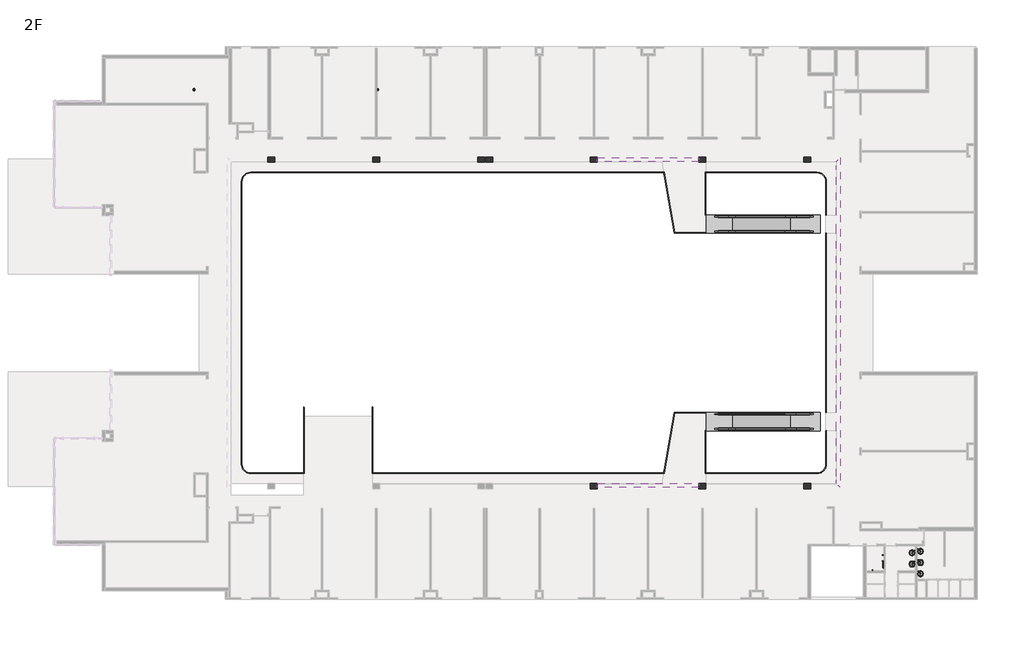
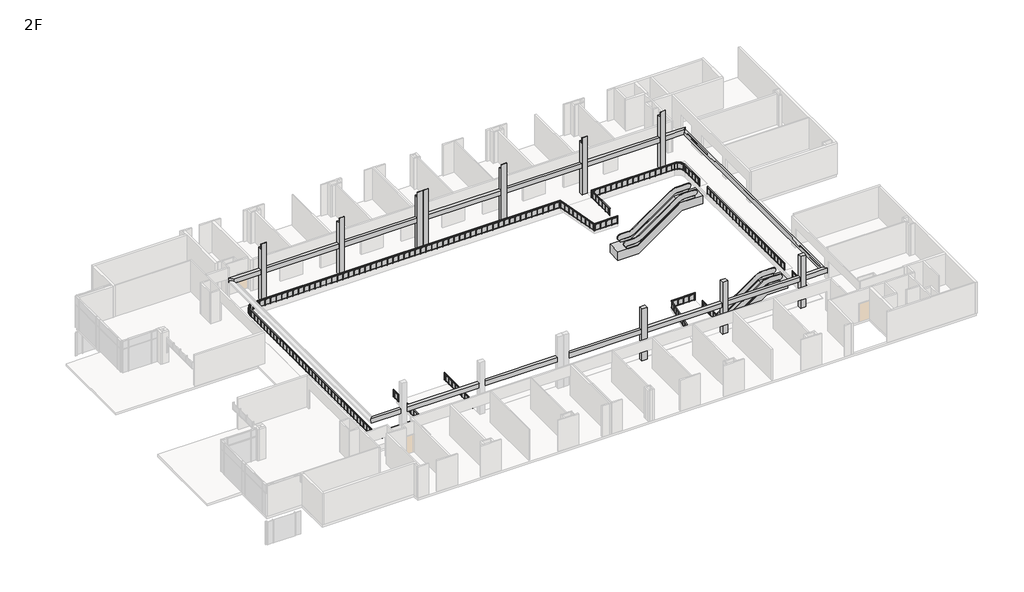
# One storey, part 6 of 6: 10 columns, 9 flow terminals, 5 railings, 3 beams, 2 light fixtures, 2 proxies.
"""IFC4 building model written with IfcOpenShell, lengths in millimetres."""

from ifc_helpers import new_model, si_unit, frame, origin, place, context, project, spatial, polyline, circle_curve, outline, extrude, faceted_brep, transform, mapped, element, save
from ifc_brep_helpers import plane_surface, cylinder_surface, advanced_brep
from components import escalator_escalator_upper_floors_03ccc224, escalator_escalator_upper_floors_265e6ffc, grab_rail_horizontal_grab_bar_horizontal_3488bc9b, grab_rail_vertical_grab_rail_vertical_4faa361f, sink_bathroom_2_sink_bathroom_2_b4141ae8, sink_bathroom_2_sink_bathroom_2_ad220687, street_light_8_street_light_8_87dfb617, handrail_glass_panel_8400b6d2, handrail_glass_panel_13f54aed, handrail_glass_panel_4ead3802, handrail_glass_panel_f7548589, handrail_glass_panel_d91cfecd, handrail_glass_panel_25425764, handrail_glass_panel_a0be857a

model = new_model("IFC4")

# Units and contexts
model_context = context("Model", 3, world=origin())
ifc_project = project(units=[si_unit("LENGTHUNIT", "METRE", prefix="MILLI")], contexts=[model_context])

# Site, building, storey
site = spatial("IfcSite", under=ifc_project)
building = spatial("IfcBuilding", under=site)
storey = spatial("IfcBuildingStorey", under=building, Name="2F", Elevation=8100.0)

# Beams
placement = place(None, origin())
element("IfcBeam", 1, ObjectType="M_Concrete-Rectangular Beam : 350 x 550mm", at=placement, inside=storey, context=model_context, shape_type="SweptSolid", body=[
    extrude(outline(polyline([(31312.4134101, 11797.3851347), (30962.4134101, 11447.3851347), (28787.4134101, 11447.3851347), (28787.4134101, 11797.3851347), (31312.4134101, 11797.3851347)])), frame((0.0, 0.0, 11300.0), z_axis=(0.0, 0.0, 1.0), x_axis=(1.0, 0.0, 0.0)), (0.0, 0.0, 1.0), 550.0),
    extrude(outline(polyline([(-20537.5865899, 11447.3851347), (-20887.5865899, 11797.3851347), (-17437.5865899, 11797.3851347), (-17437.5865899, 11447.3851347), (-20537.5865899, 11447.3851347)])), frame((0.0, 0.0, 11300.0), z_axis=(0.0, 0.0, 1.0), x_axis=(1.0, 0.0, 0.0)), (0.0, 0.0, 1.0), 550.0),
    extrude(outline(polyline([(-8507.5865899, 11797.3851347), (-8507.5865899, 11447.3851347), (-16837.5865899, 11447.3851347), (-16837.5865899, 11797.3851347), (-8507.5865899, 11797.3851347)])), frame((0.0, 0.0, 11300.0), z_axis=(0.0, 0.0, 1.0), x_axis=(1.0, 0.0, 0.0)), (0.0, 0.0, 1.0), 550.0),
    extrude(outline(polyline([(-7907.5865899, 11447.3851347), (-7907.5865899, 11797.3851347), (422.4134101, 11797.3851347), (422.4134101, 11447.3851347), (-7907.5865899, 11447.3851347)])), frame((0.0, 0.0, 11300.0), z_axis=(0.0, 0.0, 1.0), x_axis=(1.0, 0.0, 0.0)), (0.0, 0.0, 1.0), 550.0),
    extrude(outline(polyline([(1022.4134101, 11447.3851347), (1022.4134101, 11797.3851347), (1097.4134101, 11797.3851347), (1097.4134101, 11447.3851347), (1022.4134101, 11447.3851347)])), frame((0.0, 0.0, 11300.0), z_axis=(0.0, 0.0, 1.0), x_axis=(1.0, 0.0, 0.0)), (0.0, 0.0, 1.0), 550.0),
    extrude(outline(polyline([(10027.4134101, 11797.3851347), (10027.4134101, 11447.3851347), (1697.4134101, 11447.3851347), (1697.4134101, 11797.3851347), (10027.4134101, 11797.3851347)])), frame((0.0, 0.0, 11300.0), z_axis=(0.0, 0.0, 1.0), x_axis=(1.0, 0.0, 0.0)), (0.0, 0.0, 1.0), 550.0),
    extrude(outline(polyline([(10627.4134101, 11447.3851347), (10627.4134101, 11797.3851347), (19257.4134101, 11797.3851347), (19257.4134101, 11447.3851347), (10627.4134101, 11447.3851347)])), frame((0.0, 0.0, 11300.0), z_axis=(0.0, 0.0, 1.0), x_axis=(1.0, 0.0, 0.0)), (0.0, 0.0, 1.0), 550.0),
    extrude(outline(polyline([(19857.4134101, 11447.3851347), (19857.4134101, 11797.3851347), (28187.4134101, 11797.3851347), (28187.4134101, 11447.3851347), (19857.4134101, 11447.3851347)])), frame((0.0, 0.0, 11300.0), z_axis=(0.0, 0.0, 1.0), x_axis=(1.0, 0.0, 0.0)), (0.0, 0.0, 1.0), 550.0),
])
element("IfcBeam", 2, ObjectType="M_Concrete-Rectangular Beam : 350 x 550mm", at=placement, inside=storey, context=model_context, shape_type="AdvancedBrep", body=[
    advanced_brep(
    [(30962.4134101, -11484.6148653, 11775.0), (30962.4134101, -15368.24121, 11775.0), (30974.4134101, -15234.6148653, 11775.0), (30974.4134101, -11484.6148653, 11775.0), (30962.4134101, 11447.3851347, 11225.0), (30962.4134101, -15972.6148653, 11225.0), (30962.4134101, -15972.6148653, 11575.0), (30962.4134101, -15368.24121, 11575.0), (30962.4134101, -11484.6148653, 11575.0), (30962.4134101, -9934.6148653, 11575.0), (30962.4134101, -9934.6148653, 11775.0), (30962.4134101, 5335.3851347, 11775.0), (30962.4134101, 5335.3851347, 11575.0), (30962.4134101, 6885.3851347, 11575.0), (30962.4134101, 6885.3851347, 11775.0), (30962.4134101, 10769.0114795, 11775.0), (30962.4134101, 10769.0114795, 11575.0), (30962.4134101, 11447.3851347, 11575.0), (30962.4134101, 11447.3851347, 11300.0), (31312.4134101, 11797.3851347, 11225.0), (31312.4134101, -16322.6148653, 11225.0), (31312.4134101, 11797.3851347, 11300.0), (31312.4134101, 11797.3851347, 11575.0), (31312.4134101, -16322.6148653, 11575.0), (30974.4134101, -11484.6148653, 11575.0), (30974.4134101, -15234.6148653, 11575.0), (30974.4134101, 10635.3851347, 11575.0), (30974.4134101, 6885.3851347, 11575.0), (30974.4134101, 5335.3851347, 11575.0), (30974.4134101, -9934.6148653, 11575.0), (30974.4134101, -9934.6148653, 11775.0), (30974.4134101, 5335.3851347, 11775.0), (30974.4134101, 6885.3851347, 11775.0), (30974.4134101, 10635.3851347, 11775.0)],
    [
        (0, 1),
        (1, 2, circle_curve(frame((30224.4134101, -15234.6148653, 11775.0), z_axis=(0.0, 0.0, 1.0), x_axis=(1.0, 0.0, 0.0)), 750.0)),
        (2, 3),
        (3, 0),
        (4, 5),
        (5, 6),
        (6, 7),
        (7, 1),
        (0, 8),
        (8, 9),
        (9, 10),
        (10, 11),
        (11, 12),
        (12, 13),
        (13, 14),
        (14, 15),
        (15, 16),
        (16, 17),
        (17, 18),
        (18, 4),
        (4, 19),
        (19, 20),
        (20, 5),
        (19, 21),
        (21, 22),
        (22, 23),
        (23, 20),
        (23, 6),
        (17, 22),
        (24, 25),
        (25, 7, circle_curve(frame((30224.4134101, -15234.6148653, 11575.0), z_axis=(0.0, 0.0, -1.0), x_axis=(1.0, 0.0, 0.0)), 750.0)),
        (16, 26, circle_curve(frame((30224.4134101, 10635.3851347, 11575.0), z_axis=(0.0, 0.0, -1.0), x_axis=(1.0, 0.0, 0.0)), 750.0)),
        (26, 27),
        (27, 13),
        (12, 28),
        (28, 29),
        (29, 9),
        (8, 24),
        (25, 2),
        (24, 3),
        (29, 30),
        (30, 10),
        (28, 31),
        (31, 30),
        (11, 31),
        (27, 32),
        (32, 14),
        (26, 33),
        (33, 32),
        (15, 33, circle_curve(frame((30224.4134101, 10635.3851347, 11775.0), z_axis=(0.0, 0.0, -1.0), x_axis=(1.0, 0.0, 0.0)), 750.0)),
    ],
    [
        plane_surface(frame((31312.4134101, -15959.9148653, 11775.0), z_axis=(0.0, 0.0, 1.0), x_axis=(0.0, 1.0, 0.0))),
        plane_surface(frame((30962.4134101, -15959.9148653, 11775.0), z_axis=(-1.0, 0.0, 0.0), x_axis=(0.0, 1.0, 0.0))),
        plane_surface(frame((30962.4134101, -15959.9148653, 11225.0), z_axis=(0.0, 0.0, -1.0), x_axis=(0.0, 1.0, 0.0))),
        plane_surface(frame((31312.4134101, -15959.9148653, 11225.0), z_axis=(1.0, 0.0, 0.0), x_axis=(0.0, 1.0, 0.0))),
        plane_surface(frame((30962.4134101, -15972.6148653, 11850.0), z_axis=(-0.7071067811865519, -0.7071067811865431, 0.0), x_axis=(0.7071067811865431, -0.7071067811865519, 0.0))),
        plane_surface(frame((30962.4134101, 11447.3851347, 11850.0), z_axis=(-0.7071067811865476, 0.7071067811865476, 0.0), x_axis=(0.7071067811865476, 0.7071067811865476, 0.0))),
        plane_surface(frame((42824.4134101, 21235.3851347, 11575.0), z_axis=(0.0, 0.0, 1.0), x_axis=(1.0, 0.0, 0.0))),
        cylinder_surface(frame((30224.4134101, -15234.6148653, 11850.0), z_axis=(0.0, 0.0, 1.0), x_axis=(1.0, 0.0, 0.0)), 750.0),
        plane_surface(frame((30974.4134101, -15234.6148653, 11575.0), z_axis=(1.0, 0.0, 0.0), x_axis=(0.0, 0.0, 1.0))),
        plane_surface(frame((30974.4134101, -11484.6148653, 11575.0), z_axis=(0.0, 1.0, 0.0), x_axis=(0.0, 0.0, 1.0))),
        plane_surface(frame((30034.2682249, -9934.6148653, 11575.0), z_axis=(0.0, -1.0, 0.0), x_axis=(0.0, 0.0, 1.0))),
        plane_surface(frame((30974.4134101, -9934.6148653, 11575.0), z_axis=(1.0, 0.0, 0.0), x_axis=(0.0, 0.0, 1.0))),
        plane_surface(frame((30974.4134101, 5335.3851347, 11575.0), z_axis=(0.0, 1.0, 0.0), x_axis=(0.0, 0.0, 1.0))),
        plane_surface(frame((30034.2682249, 6885.3851347, 11575.0), z_axis=(0.0, -1.0, 0.0), x_axis=(0.0, 0.0, 1.0))),
        plane_surface(frame((30974.4134101, 6885.3851347, 11575.0), z_axis=(1.0, 0.0, 0.0), x_axis=(0.0, 0.0, 1.0))),
        cylinder_surface(frame((30224.4134101, 10635.3851347, 11850.0), z_axis=(0.0, 0.0, 1.0), x_axis=(1.0, 0.0, 0.0)), 750.0),
    ],
    [
        (0, [[1, 2, 3, 4]]),
        (1, [[5, 6, 7, 8, -1, 9, 10, 11, 12, 13, 14, 15, 16, 17, 18, 19, 20]]),
        (2, [[-5, 21, 22, 23]]),
        (3, [[-22, 24, 25, 26, 27]]),
        (4, [[-23, -27, 28, -6]]),
        (5, [[-21, -20, -19, 29, -25, -24]]),
        (6, [[30, 31, -7, -28, -26, -29, -18, 32, 33, 34, -14, 35, 36, 37, -10, 38]]),
        (7, [[-31, 39, -2, -8]]),
        (8, [[-30, 40, -3, -39]]),
        (9, [[-38, -9, -4, -40]]),
        (10, [[-37, 41, 42, -11]]),
        (11, [[-36, 43, 44, -41]]),
        (12, [[-35, -13, 45, -43]]),
        (13, [[-34, 46, 47, -15]]),
        (14, [[-33, 48, 49, -46]]),
        (15, [[-32, -17, 50, -48]]),
        (0, [[-12, -42, -44, -45]]),
        (0, [[-16, -47, -49, -50]]),
    ],
),
])
element("IfcBeam", 3, ObjectType="M_Concrete-Rectangular Beam : 350 x 550mm", at=placement, inside=storey, context=model_context, shape_type="Brep", body=[
    faceted_brep([(-20537.5865899, -15972.6148653, 11850.0), (-20552.5865899, -15987.6148653, 11850.0), (-20887.5865899, -16322.6148653, 11850.0), (-17437.5865899, -16322.6148653, 11850.0), (-17437.5865899, -15972.6148653, 11850.0), (-20537.5865899, -15972.6148653, 11300.0), (-17437.5865899, -15972.6148653, 11300.0), (-20887.5865899, -16322.6148653, 11300.0), (-17437.5865899, -16322.6148653, 11300.0)], [[[0, 1, 2, 3, 4]], [[5, 0, 4, 6]], [[7, 5, 6, 8]], [[2, 7, 8, 3]], [[2, 1, 0, 5, 7]], [[4, 3, 8, 6]]]),
    faceted_brep([(31312.4134101, -16322.6148653, 11300.0), (30962.4134101, -15972.6148653, 11300.0), (30962.4134101, -15972.6148653, 11775.0), (30962.4134101, -15972.6148653, 11850.0), (31312.4134101, -16322.6148653, 11850.0), (31312.4134101, -16322.6148653, 11775.0), (28787.4134101, -16322.6148653, 11850.0), (28787.4134101, -15972.6148653, 11850.0), (28787.4134101, -15972.6148653, 11300.0), (28787.4134101, -16322.6148653, 11300.0)], [[[0, 1, 2, 3, 4, 5]], [[6, 7, 8, 9]], [[4, 3, 7, 6]], [[3, 2, 1, 8, 7]], [[1, 0, 9, 8]], [[0, 5, 4, 6, 9]]]),
    faceted_brep([(-8507.5865899, -15972.6148653, 11850.0), (-8507.5865899, -16322.6148653, 11850.0), (-8507.5865899, -16322.6148653, 11300.0), (-8507.5865899, -15972.6148653, 11300.0), (-16837.5865899, -16322.6148653, 11850.0), (-16837.5865899, -15972.6148653, 11850.0), (-16837.5865899, -15972.6148653, 11300.0), (-16837.5865899, -16322.6148653, 11300.0)], [[[0, 1, 2, 3]], [[4, 5, 6, 7]], [[1, 0, 5, 4]], [[0, 3, 6, 5]], [[3, 2, 7, 6]], [[2, 1, 4, 7]]]),
    faceted_brep([(-7907.5865899, -16322.6148653, 11850.0), (-7907.5865899, -15972.6148653, 11850.0), (-7907.5865899, -15972.6148653, 11300.0), (-7907.5865899, -16322.6148653, 11300.0), (422.4134101, -16322.6148653, 11850.0), (422.4134101, -15972.6148653, 11850.0), (422.4134101, -15972.6148653, 11300.0), (422.4134101, -16322.6148653, 11300.0)], [[[0, 1, 2, 3]], [[1, 0, 4, 5]], [[2, 1, 5, 6]], [[3, 2, 6, 7]], [[0, 3, 7, 4]], [[5, 4, 7, 6]]]),
    faceted_brep([(1022.4134101, -16322.6148653, 11850.0), (1022.4134101, -15972.6148653, 11850.0), (1022.4134101, -15972.6148653, 11300.0), (1022.4134101, -16322.6148653, 11300.0), (1097.4134101, -16322.6148653, 11850.0), (1097.4134101, -15972.6148653, 11850.0), (1097.4134101, -15972.6148653, 11300.0), (1097.4134101, -16322.6148653, 11300.0)], [[[0, 1, 2, 3]], [[1, 0, 4, 5]], [[2, 1, 5, 6]], [[3, 2, 6, 7]], [[0, 3, 7, 4]], [[5, 4, 7, 6]]]),
    faceted_brep([(10027.4134101, -15972.6148653, 11850.0), (10027.4134101, -16322.6148653, 11850.0), (10027.4134101, -16322.6148653, 11300.0), (10027.4134101, -15972.6148653, 11300.0), (1697.4134101, -16322.6148653, 11850.0), (1697.4134101, -15972.6148653, 11850.0), (1697.4134101, -15972.6148653, 11300.0), (1697.4134101, -16322.6148653, 11300.0)], [[[0, 1, 2, 3]], [[4, 5, 6, 7]], [[1, 0, 5, 4]], [[0, 3, 6, 5]], [[3, 2, 7, 6]], [[2, 1, 4, 7]]]),
    faceted_brep([(10627.4134101, -16322.6148653, 11850.0), (10627.4134101, -15972.6148653, 11850.0), (10627.4134101, -15972.6148653, 11300.0), (10627.4134101, -16322.6148653, 11300.0), (19257.4134101, -16322.6148653, 11850.0), (19257.4134101, -15972.6148653, 11850.0), (19257.4134101, -15972.6148653, 11300.0), (19257.4134101, -16322.6148653, 11300.0)], [[[0, 1, 2, 3]], [[1, 0, 4, 5]], [[2, 1, 5, 6]], [[3, 2, 6, 7]], [[0, 3, 7, 4]], [[5, 4, 7, 6]]]),
    faceted_brep([(19857.4134101, -16322.6148653, 11850.0), (19857.4134101, -15972.6148653, 11850.0), (19857.4134101, -15972.6148653, 11300.0), (19857.4134101, -16322.6148653, 11300.0), (28187.4134101, -16322.6148653, 11850.0), (28187.4134101, -15972.6148653, 11850.0), (28187.4134101, -15972.6148653, 11300.0), (28187.4134101, -16322.6148653, 11300.0)], [[[0, 1, 2, 3]], [[1, 0, 4, 5]], [[2, 1, 5, 6]], [[3, 2, 6, 7]], [[0, 3, 7, 4]], [[5, 4, 7, 6]]]),
])

# Proxies
escalator_escalator_upper_floors_shape = escalator_escalator_upper_floors_03ccc224(model_context)
element("IfcBuildingElementProxy", 4, Name="ESCALATOR : ESCALATOR-upper floors", ObjectType="ESCALATOR : ESCALATOR-upper floors", at=placement, inside=storey, context=model_context, shape_type="MappedRepresentation", body=[
    mapped(escalator_escalator_upper_floors_shape, transform((31506.3835332, 6122.3851347, 4150.0), x_axis=(1.0, 0.0, 0.0), y_axis=(0.0, 1.0, 0.0), z_axis=(0.0, 0.0, 1.0))),
])
escalator_escalator_upper_floors_2_shape = escalator_escalator_upper_floors_265e6ffc(model_context)
element("IfcBuildingElementProxy", 5, Name="ESCALATOR : ESCALATOR-upper floors", ObjectType="ESCALATOR : ESCALATOR-upper floors", at=placement, inside=storey, context=model_context, shape_type="MappedRepresentation", body=[
    mapped(escalator_escalator_upper_floors_2_shape, transform((31506.3835332, -10697.6148653, 4150.0), x_axis=(1.0, 0.0, 0.0), y_axis=(0.0, 1.0, 0.0), z_axis=(0.0, 0.0, 1.0))),
])

# Columns
element("IfcColumn", 6, ObjectType="Concrete-Rectangular-Column : 450x600", at=placement, inside=storey, context=model_context, shape_type="Brep", body=[
    faceted_brep([(10627.4134101, -15972.6148653, 8100.0), (10627.4134101, -16422.6148653, 8100.0), (10027.4134101, -16422.6148653, 8100.0), (10027.4134101, -15972.6148653, 8100.0), (10027.4134101, -15972.6148653, 11300.0), (10027.4134101, -15972.6148653, 11850.0), (10027.4134101, -15972.6148653, 14375.0), (10627.4134101, -15972.6148653, 14375.0), (10627.4134101, -15972.6148653, 11850.0), (10627.4134101, -15972.6148653, 11300.0), (10027.4134101, -16422.6148653, 14375.0), (10627.4134101, -16422.6148653, 14375.0)], [[[0, 1, 2, 3]], [[0, 3, 4, 5, 6, 7, 8, 9]], [[3, 2, 10, 6, 5, 4]], [[2, 1, 11, 10]], [[1, 0, 9, 8, 7, 11]], [[7, 6, 10, 11]]]),
])
element("IfcColumn", 7, ObjectType="Concrete-Rectangular-Column : 450x600", at=placement, inside=storey, context=model_context, shape_type="Brep", body=[
    faceted_brep([(19857.4134101, -15972.6148653, 8100.0), (19857.4134101, -16422.6148653, 8100.0), (19257.4134101, -16422.6148653, 8100.0), (19257.4134101, -15972.6148653, 8100.0), (19257.4134101, -15972.6148653, 11300.0), (19257.4134101, -15972.6148653, 11850.0), (19257.4134101, -15972.6148653, 14375.0), (19857.4134101, -15972.6148653, 14375.0), (19857.4134101, -15972.6148653, 11850.0), (19857.4134101, -15972.6148653, 11300.0), (19257.4134101, -16422.6148653, 14375.0), (19857.4134101, -16422.6148653, 14375.0)], [[[0, 1, 2, 3]], [[0, 3, 4, 5, 6, 7, 8, 9]], [[3, 2, 10, 6, 5, 4]], [[2, 1, 11, 10]], [[1, 0, 9, 8, 7, 11]], [[7, 6, 10, 11]]]),
])
element("IfcColumn", 8, ObjectType="Concrete-Rectangular-Column : 450x600", at=placement, inside=storey, context=model_context, shape_type="Brep", body=[
    faceted_brep([(28787.4134101, -15972.6148653, 8100.0), (28787.4134101, -16422.6148653, 8100.0), (28187.4134101, -16422.6148653, 8100.0), (28187.4134101, -15972.6148653, 8100.0), (28187.4134101, -15972.6148653, 11300.0), (28187.4134101, -15972.6148653, 11850.0), (28187.4134101, -15972.6148653, 14375.0), (28787.4134101, -15972.6148653, 14375.0), (28787.4134101, -15972.6148653, 11850.0), (28787.4134101, -15972.6148653, 11300.0), (28187.4134101, -16422.6148653, 14375.0), (28787.4134101, -16422.6148653, 14375.0)], [[[0, 1, 2, 3]], [[0, 3, 4, 5, 6, 7, 8, 9]], [[3, 2, 10, 6, 5, 4]], [[2, 1, 11, 10]], [[1, 0, 9, 8, 7, 11]], [[7, 6, 10, 11]]]),
])
element("IfcColumn", 9, ObjectType="Concrete-Rectangular-Column : 450x600", at=placement, inside=storey, context=model_context, shape_type="SweptSolid", body=[
    extrude(outline(polyline([(11847.3851347, 8100.0), (11397.3851347, 8100.0), (11397.3851347, 15000.0), (11419.6101347, 15000.0), (11419.6101347, 14375.0), (11847.3851347, 14375.0), (11847.3851347, 8100.0)])), frame((-8507.5865899, 0.0, 0.0), z_axis=(1.0, 0.0, 0.0), x_axis=(0.0, 1.0, 0.0)), (0.0, 0.0, 1.0), 600.0),
])
element("IfcColumn", 10, ObjectType="Concrete-Rectangular-Column : 450x600", at=placement, inside=storey, context=model_context, shape_type="SweptSolid", body=[
    extrude(outline(polyline([(11847.3851347, 8100.0), (11397.3851347, 8100.0), (11397.3851347, 15000.0), (11419.6101347, 15000.0), (11419.6101347, 14375.0), (11847.3851347, 14375.0), (11847.3851347, 8100.0)])), frame((-17437.5865899, 0.0, 0.0), z_axis=(1.0, 0.0, 0.0), x_axis=(0.0, 1.0, 0.0)), (0.0, 0.0, 1.0), 600.0),
])
element("IfcColumn", 11, ObjectType="Concrete-Rectangular-Column : 450x600", at=placement, inside=storey, context=model_context, shape_type="SweptSolid", body=[
    extrude(outline(polyline([(11847.3851347, 8100.0), (11397.3851347, 8100.0), (11397.3851347, 15000.0), (11419.6101347, 15000.0), (11419.6101347, 14375.0), (11847.3851347, 14375.0), (11847.3851347, 8100.0)])), frame((422.4134101, 0.0, 0.0), z_axis=(1.0, 0.0, 0.0), x_axis=(0.0, 1.0, 0.0)), (0.0, 0.0, 1.0), 600.0),
])
element("IfcColumn", 12, ObjectType="Concrete-Rectangular-Column : 450x600", at=placement, inside=storey, context=model_context, shape_type="SweptSolid", body=[
    extrude(outline(polyline([(11847.3851347, 8100.0), (11397.3851347, 8100.0), (11397.3851347, 15000.0), (11419.6101347, 15000.0), (11419.6101347, 14375.0), (11847.3851347, 14375.0), (11847.3851347, 8100.0)])), frame((10027.4134101, 0.0, 0.0), z_axis=(1.0, 0.0, 0.0), x_axis=(0.0, 1.0, 0.0)), (0.0, 0.0, 1.0), 600.0),
])
element("IfcColumn", 13, ObjectType="Concrete-Rectangular-Column : 450x600", at=placement, inside=storey, context=model_context, shape_type="SweptSolid", body=[
    extrude(outline(polyline([(11847.3851347, 8100.0), (11397.3851347, 8100.0), (11397.3851347, 15000.0), (11419.6101347, 15000.0), (11419.6101347, 14375.0), (11847.3851347, 14375.0), (11847.3851347, 8100.0)])), frame((19257.4134101, 0.0, 0.0), z_axis=(1.0, 0.0, 0.0), x_axis=(0.0, 1.0, 0.0)), (0.0, 0.0, 1.0), 600.0),
])
element("IfcColumn", 14, ObjectType="Concrete-Rectangular-Column : 450x600", at=placement, inside=storey, context=model_context, shape_type="SweptSolid", body=[
    extrude(outline(polyline([(11847.3851347, 8100.0), (11397.3851347, 8100.0), (11397.3851347, 15000.0), (11419.6101347, 15000.0), (11419.6101347, 14375.0), (11847.3851347, 14375.0), (11847.3851347, 8100.0)])), frame((28187.4134101, 0.0, 0.0), z_axis=(1.0, 0.0, 0.0), x_axis=(0.0, 1.0, 0.0)), (0.0, 0.0, 1.0), 600.0),
])
element("IfcColumn", 15, ObjectType="Concrete-Rectangular-Column : 450x600", at=placement, inside=storey, context=model_context, shape_type="SweptSolid", body=[
    extrude(outline(polyline([(11847.3851347, 8100.0), (11397.3851347, 8100.0), (11397.3851347, 15000.0), (11419.6101347, 15000.0), (11419.6101347, 14375.0), (11847.3851347, 14375.0), (11847.3851347, 8100.0)])), frame((1097.4134101, 0.0, 0.0), z_axis=(1.0, 0.0, 0.0), x_axis=(0.0, 1.0, 0.0)), (0.0, 0.0, 1.0), 600.0),
])

# Flow terminals
grab_rail_horizontal_grab_bar_horizontal_shape = grab_rail_horizontal_grab_bar_horizontal_3488bc9b(model_context)
element("IfcFlowTerminal", 16, ObjectType="Grab Rail - Horizontal : Grab Bar Horizontal", at=placement, inside=storey, context=model_context, shape_type="MappedRepresentation", body=[
    mapped(grab_rail_horizontal_grab_bar_horizontal_shape, transform((34992.4134101, -23724.4105318, 8100.0), x_axis=(0.0, -1.0, 0.0), y_axis=(1.0, 0.0, 0.0), z_axis=(0.0, 0.0, 1.0))),
])
grab_rail_vertical_grab_rail_vertical_shape = grab_rail_vertical_grab_rail_vertical_4faa361f(model_context)
element("IfcFlowTerminal", 17, ObjectType="Grab Rail - Vertical : Grab Rail Vertical", at=placement, inside=storey, context=model_context, shape_type="MappedRepresentation", body=[
    mapped(grab_rail_vertical_grab_rail_vertical_shape, transform((33166.6177436, -23422.6148653, 8100.0), x_axis=(-1.0, 0.0, 0.0), y_axis=(0.0, -1.0, 0.0), z_axis=(0.0, 0.0, 1.0))),
])
element("IfcFlowTerminal", 18, ObjectType="Grab Rail - Vertical : Grab Rail Vertical", at=placement, inside=storey, context=model_context, shape_type="MappedRepresentation", body=[
    mapped(grab_rail_vertical_grab_rail_vertical_shape, transform((34992.4134101, -23424.4105318, 8100.0), x_axis=(0.0, -1.0, 0.0), y_axis=(1.0, 0.0, 0.0), z_axis=(0.0, 0.0, 1.0))),
])
element("IfcFlowTerminal", 19, ObjectType="Grab Rail - Vertical : Grab Rail Vertical", at=placement, inside=storey, context=model_context, shape_type="MappedRepresentation", body=[
    mapped(grab_rail_vertical_grab_rail_vertical_shape, transform((34992.4134101, -22924.4105318, 8100.0), x_axis=(0.0, -1.0, 0.0), y_axis=(1.0, 0.0, 0.0), z_axis=(0.0, 0.0, 1.0))),
])
sink_bathroom_2_sink_bathroom_2_shape = sink_bathroom_2_sink_bathroom_2_b4141ae8(model_context)
element("IfcFlowTerminal", 20, ObjectType="Sink - Bathroom (2) : Sink - Bathroom (2)", at=placement, inside=storey, context=model_context, shape_type="MappedRepresentation", body=[
    mapped(sink_bathroom_2_sink_bathroom_2_shape, transform((37822.4134101, -22732.4647318, 8100.0), x_axis=(0.0, 1.0, 0.0), y_axis=(-1.0, 0.0, 0.0), z_axis=(0.0, 0.0, 1.0))),
])
element("IfcFlowTerminal", 21, ObjectType="Sink - Bathroom (2) : Sink - Bathroom (2)", at=placement, inside=storey, context=model_context, shape_type="MappedRepresentation", body=[
    mapped(sink_bathroom_2_sink_bathroom_2_shape, transform((37822.4134101, -21782.4647318, 8100.0), x_axis=(0.0, 1.0, 0.0), y_axis=(-1.0, 0.0, 0.0), z_axis=(0.0, 0.0, 1.0))),
])
element("IfcFlowTerminal", 22, ObjectType="Sink - Bathroom (2) : Sink - Bathroom (2)", at=placement, inside=storey, context=model_context, shape_type="MappedRepresentation", body=[
    mapped(sink_bathroom_2_sink_bathroom_2_shape, transform((37822.4134101, -23682.4647318, 8100.0), x_axis=(0.0, 1.0, 0.0), y_axis=(-1.0, 0.0, 0.0), z_axis=(0.0, 0.0, 1.0))),
])
sink_bathroom_2_sink_bathroom_2_2_shape = sink_bathroom_2_sink_bathroom_2_ad220687(model_context)
element("IfcFlowTerminal", 23, ObjectType="Sink - Bathroom (2) : Sink - Bathroom (2)", at=placement, inside=storey, context=model_context, shape_type="MappedRepresentation", body=[
    mapped(sink_bathroom_2_sink_bathroom_2_2_shape, transform((37707.4134101, -22859.9647318, 8100.0), x_axis=(0.0, 1.0, 0.0), y_axis=(-1.0, 0.0, 0.0), z_axis=(0.0, 0.0, 1.0))),
])
element("IfcFlowTerminal", 24, ObjectType="Sink - Bathroom (2) : Sink - Bathroom (2)", at=placement, inside=storey, context=model_context, shape_type="MappedRepresentation", body=[
    mapped(sink_bathroom_2_sink_bathroom_2_2_shape, transform((37707.4134101, -21909.9647318, 8100.0), x_axis=(0.0, 1.0, 0.0), y_axis=(-1.0, 0.0, 0.0), z_axis=(0.0, 0.0, 1.0))),
])

# Light fixtures
street_light_8_street_light_8_shape = street_light_8_street_light_8_87dfb617(model_context)
element("IfcLightFixture", 25, ObjectType="Street Light (8) : Street Light (8)", at=placement, inside=storey, context=model_context, shape_type="MappedRepresentation", body=[
    mapped(street_light_8_street_light_8_shape, transform((-8138.0865899, 17579.3851347, 8150.0), x_axis=(1.0, 0.0, 0.0), y_axis=(0.0, 1.0, 0.0), z_axis=(0.0, 0.0, 1.0))),
])
element("IfcLightFixture", 26, ObjectType="Street Light (8) : Street Light (8)", at=placement, inside=storey, context=model_context, shape_type="MappedRepresentation", body=[
    mapped(street_light_8_street_light_8_shape, transform((-23747.5865898, 17579.3851347, 8150.0), x_axis=(1.0, 0.0, 0.0), y_axis=(0.0, 1.0, 0.0), z_axis=(0.0, 0.0, 1.0))),
])

# Railings
handrail_glass_panel_shape = handrail_glass_panel_8400b6d2(model_context)
handrail_glass_panel_2_shape = handrail_glass_panel_13f54aed(model_context)
handrail_glass_panel_3_shape = handrail_glass_panel_4ead3802(model_context)
element("IfcRailing", 27, ObjectType="Handrail - Glass Panel", at=placement, inside=storey, context=model_context, shape_type="MappedRepresentation", body=[
    mapped(handrail_glass_panel_shape, transform((0.0, 0.0, 0.0), x_axis=(1.0, 0.0, 0.0), y_axis=(0.0, 1.0, 0.0), z_axis=(0.0, 0.0, 1.0))),
    mapped(handrail_glass_panel_2_shape, transform((0.0, 0.0, 0.0), x_axis=(1.0, 0.0, 0.0), y_axis=(0.0, 1.0, 0.0), z_axis=(0.0, 0.0, 1.0))),
    mapped(handrail_glass_panel_3_shape, transform((0.0, 0.0, 0.0), x_axis=(1.0, 0.0, 0.0), y_axis=(0.0, 1.0, 0.0), z_axis=(0.0, 0.0, 1.0))),
])
handrail_glass_panel_4_shape = handrail_glass_panel_f7548589(model_context)
element("IfcRailing", 28, ObjectType="Handrail - Glass Panel", at=placement, inside=storey, context=model_context, shape_type="MappedRepresentation", body=[
    mapped(handrail_glass_panel_4_shape, transform((0.0, 0.0, 0.0), x_axis=(1.0, 0.0, 0.0), y_axis=(0.0, 1.0, 0.0), z_axis=(0.0, 0.0, 1.0))),
])
handrail_glass_panel_5_shape = handrail_glass_panel_d91cfecd(model_context)
element("IfcRailing", 29, ObjectType="Handrail - Glass Panel", at=placement, inside=storey, context=model_context, shape_type="MappedRepresentation", body=[
    mapped(handrail_glass_panel_5_shape, transform((0.0, 0.0, 0.0), x_axis=(1.0, 0.0, 0.0), y_axis=(0.0, 1.0, 0.0), z_axis=(0.0, 0.0, 1.0))),
])
handrail_glass_panel_6_shape = handrail_glass_panel_25425764(model_context)
element("IfcRailing", 30, ObjectType="Handrail - Glass Panel", at=placement, inside=storey, context=model_context, shape_type="MappedRepresentation", body=[
    mapped(handrail_glass_panel_6_shape, transform((0.0, 0.0, 0.0), x_axis=(1.0, 0.0, 0.0), y_axis=(0.0, 1.0, 0.0), z_axis=(0.0, 0.0, 1.0))),
])
handrail_glass_panel_7_shape = handrail_glass_panel_a0be857a(model_context)
element("IfcRailing", 31, ObjectType="Handrail - Glass Panel", at=placement, inside=storey, context=model_context, shape_type="MappedRepresentation", body=[
    mapped(handrail_glass_panel_7_shape, transform((0.0, 0.0, 0.0), x_axis=(1.0, 0.0, 0.0), y_axis=(0.0, 1.0, 0.0), z_axis=(0.0, 0.0, 1.0))),
])

save(model, "model.ifc")
